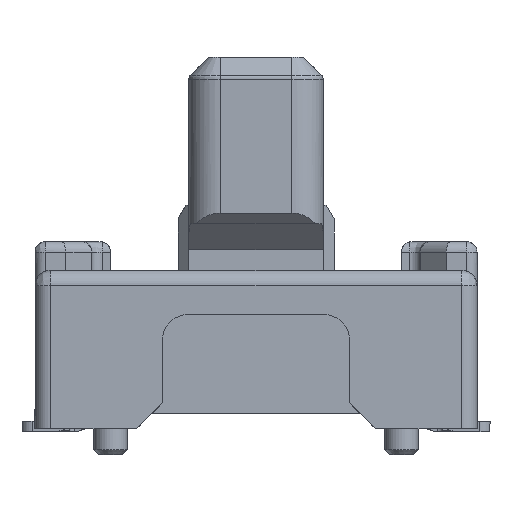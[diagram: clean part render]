
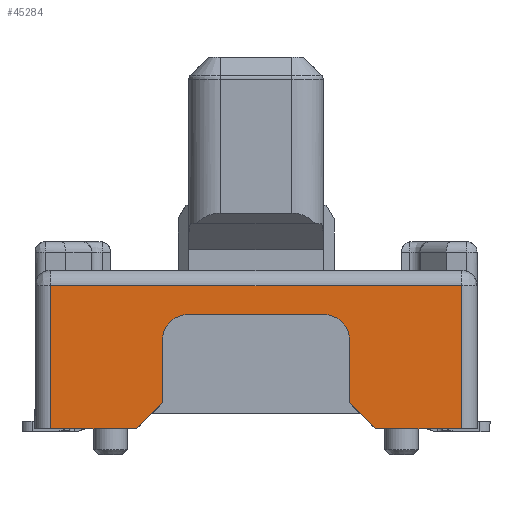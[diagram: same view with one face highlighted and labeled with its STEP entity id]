
A CAD part, front view. The second image highlights one B-rep face of the part: STEP entity #45284.
In plain terms, the highlighted planar face has unit normal (0, -1, 0).
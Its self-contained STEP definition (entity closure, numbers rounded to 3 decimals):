
#219 = ORIENTED_EDGE ( 'NONE', *, *, #21304, .T. ) ;
#1141 = VERTEX_POINT ( 'NONE', #32459 ) ;
#1482 = VERTEX_POINT ( 'NONE', #53776 ) ;
#1816 = CARTESIAN_POINT ( 'NONE',  ( 1.8, -10.9, 1.75 ) ) ;
#3188 = EDGE_CURVE ( 'NONE', #10861, #32218, #42182, .T. ) ;
#3195 = ORIENTED_EDGE ( 'NONE', *, *, #10287, .F. ) ;
#4144 = CARTESIAN_POINT ( 'NONE',  ( -1.8, -10.9, 2.25 ) ) ;
#5046 = ORIENTED_EDGE ( 'NONE', *, *, #38968, .T. ) ;
#5724 = DIRECTION ( 'NONE',  ( 0., 1., 0. ) ) ;
#6372 = ORIENTED_EDGE ( 'NONE', *, *, #41740, .F. ) ;
#7670 = VECTOR ( 'NONE', #19318, 1000. ) ;
#7875 = CARTESIAN_POINT ( 'NONE',  ( -4.25, -10.9, 0.05 ) ) ;
#10287 = EDGE_CURVE ( 'NONE', #11135, #1482, #35763, .T. ) ;
#10861 = VERTEX_POINT ( 'NONE', #1816 ) ;
#11135 = VERTEX_POINT ( 'NONE', #57482 ) ;
#11692 = DIRECTION ( 'NONE',  ( 0., 0., 1. ) ) ;
#12288 = VERTEX_POINT ( 'NONE', #80056 ) ;
#12292 = LINE ( 'NONE', #4144, #35608 ) ;
#13918 = CARTESIAN_POINT ( 'NONE',  ( -4.25, -10.9, 0.05 ) ) ;
#15781 = LINE ( 'NONE', #55152, #19125 ) ;
#16140 = LINE ( 'NONE', #7875, #19143 ) ;
#16161 = EDGE_LOOP ( 'NONE', ( #5046, #48569, #219, #63445, #19121, #6372, #3195, #63718, #77652, #41474, #41744, #65248 ) ) ;
#18042 = VECTOR ( 'NONE', #59689, 1000. ) ;
#18063 = CARTESIAN_POINT ( 'NONE',  ( 1.3, -10.9, 1.75 ) ) ;
#19121 = ORIENTED_EDGE ( 'NONE', *, *, #3188, .F. ) ;
#19125 = VECTOR ( 'NONE', #46876, 1000. ) ;
#19143 = VECTOR ( 'NONE', #80262, 1000. ) ;
#19318 = DIRECTION ( 'NONE',  ( -0.707, 0., 0.707 ) ) ;
#20010 = CARTESIAN_POINT ( 'NONE',  ( 1.8, -10.9, 0.05 ) ) ;
#21304 = EDGE_CURVE ( 'NONE', #55565, #29870, #41528, .T. ) ;
#24637 = CARTESIAN_POINT ( 'NONE',  ( 1.3, -10.9, 2.25 ) ) ;
#25555 = DIRECTION ( 'NONE',  ( 0., 0., 1. ) ) ;
#26943 = VECTOR ( 'NONE', #51650, 1000. ) ;
#27502 = CARTESIAN_POINT ( 'NONE',  ( 2.3, -10.9, 0.05 ) ) ;
#27794 = CARTESIAN_POINT ( 'NONE',  ( 3.95, -10.9, 2.8 ) ) ;
#28173 = LINE ( 'NONE', #20010, #78870 ) ;
#28603 = LINE ( 'NONE', #67901, #18042 ) ;
#29870 = VERTEX_POINT ( 'NONE', #66728 ) ;
#30800 = FACE_OUTER_BOUND ( 'NONE', #16161, .T. ) ;
#32218 = VERTEX_POINT ( 'NONE', #24637 ) ;
#32459 = CARTESIAN_POINT ( 'NONE',  ( -3.95, -10.9, 0.05 ) ) ;
#32932 = EDGE_CURVE ( 'NONE', #1141, #43005, #16140, .T. ) ;
#33776 = CARTESIAN_POINT ( 'NONE',  ( -3.95, -10.9, 0.05 ) ) ;
#34319 = PLANE ( 'NONE',  #52156 ) ;
#34858 = VERTEX_POINT ( 'NONE', #65663 ) ;
#35576 = EDGE_CURVE ( 'NONE', #34858, #55565, #12292, .T. ) ;
#35608 = VECTOR ( 'NONE', #76403, 1000. ) ;
#35763 = LINE ( 'NONE', #27502, #7670 ) ;
#36506 = CARTESIAN_POINT ( 'NONE',  ( -3.95, -10.9, 2.8 ) ) ;
#37087 = EDGE_CURVE ( 'NONE', #61200, #63276, #68108, .T. ) ;
#37150 = EDGE_CURVE ( 'NONE', #29870, #32218, #75254, .T. ) ;
#38968 = EDGE_CURVE ( 'NONE', #43005, #34858, #63207, .T. ) ;
#41474 = ORIENTED_EDGE ( 'NONE', *, *, #37087, .F. ) ;
#41528 = CIRCLE ( 'NONE', #77818, 0.5 ) ;
#41740 = EDGE_CURVE ( 'NONE', #1482, #10861, #28173, .T. ) ;
#41744 = ORIENTED_EDGE ( 'NONE', *, *, #74477, .F. ) ;
#42071 = LINE ( 'NONE', #33776, #52129 ) ;
#42182 = CIRCLE ( 'NONE', #79358, 0.5 ) ;
#43005 = VERTEX_POINT ( 'NONE', #72537 ) ;
#45284 = ADVANCED_FACE ( 'NONE', ( #30800 ), #34319, .F. ) ;
#46741 = DIRECTION ( 'NONE',  ( 0.707, 0., 0.707 ) ) ;
#46749 = DIRECTION ( 'NONE',  ( 1., 0., 0. ) ) ;
#46876 = DIRECTION ( 'NONE',  ( -1., 0., 0. ) ) ;
#48569 = ORIENTED_EDGE ( 'NONE', *, *, #35576, .T. ) ;
#49109 = DIRECTION ( 'NONE',  ( -1., 0., 0. ) ) ;
#51650 = DIRECTION ( 'NONE',  ( 1., 0., 0. ) ) ;
#52129 = VECTOR ( 'NONE', #25555, 1000. ) ;
#52156 = AXIS2_PLACEMENT_3D ( 'NONE', #13918, #5724, #78047 ) ;
#52651 = VECTOR ( 'NONE', #46741, 1000. ) ;
#52770 = CARTESIAN_POINT ( 'NONE',  ( -1.8, -10.9, 1.75 ) ) ;
#53776 = CARTESIAN_POINT ( 'NONE',  ( 1.8, -10.9, 0.55 ) ) ;
#55019 = CARTESIAN_POINT ( 'NONE',  ( -1.8, -10.9, 0.55 ) ) ;
#55026 = DIRECTION ( 'NONE',  ( 0., 1., 0. ) ) ;
#55152 = CARTESIAN_POINT ( 'NONE',  ( -4.25, -10.9, 0.05 ) ) ;
#55565 = VERTEX_POINT ( 'NONE', #52770 ) ;
#57409 = DIRECTION ( 'NONE',  ( 0., -1., 0. ) ) ;
#57482 = CARTESIAN_POINT ( 'NONE',  ( 2.3, -10.9, 0.05 ) ) ;
#58763 = DIRECTION ( 'NONE',  ( 1., 0., 0. ) ) ;
#59689 = DIRECTION ( 'NONE',  ( 0., 0., -1. ) ) ;
#59890 = CARTESIAN_POINT ( 'NONE',  ( -4.25, -10.9, 2.8 ) ) ;
#61200 = VERTEX_POINT ( 'NONE', #36506 ) ;
#63207 = LINE ( 'NONE', #55019, #52651 ) ;
#63214 = CARTESIAN_POINT ( 'NONE',  ( -1.3, -10.9, 1.75 ) ) ;
#63276 = VERTEX_POINT ( 'NONE', #27794 ) ;
#63445 = ORIENTED_EDGE ( 'NONE', *, *, #37150, .T. ) ;
#63718 = ORIENTED_EDGE ( 'NONE', *, *, #71726, .F. ) ;
#65248 = ORIENTED_EDGE ( 'NONE', *, *, #32932, .T. ) ;
#65663 = CARTESIAN_POINT ( 'NONE',  ( -1.8, -10.9, 0.55 ) ) ;
#66728 = CARTESIAN_POINT ( 'NONE',  ( -1.3, -10.9, 2.25 ) ) ;
#66970 = CARTESIAN_POINT ( 'NONE',  ( 0., -10.9, 2.25 ) ) ;
#67901 = CARTESIAN_POINT ( 'NONE',  ( 3.95, -10.9, 0.05 ) ) ;
#68108 = LINE ( 'NONE', #59890, #26943 ) ;
#71726 = EDGE_CURVE ( 'NONE', #12288, #11135, #15781, .T. ) ;
#72537 = CARTESIAN_POINT ( 'NONE',  ( -2.3, -10.9, 0.05 ) ) ;
#74477 = EDGE_CURVE ( 'NONE', #1141, #61200, #42071, .T. ) ;
#74763 = VECTOR ( 'NONE', #58763, 1000. ) ;
#75254 = LINE ( 'NONE', #66970, #74763 ) ;
#76174 = EDGE_CURVE ( 'NONE', #63276, #12288, #28603, .T. ) ;
#76403 = DIRECTION ( 'NONE',  ( 0., 0., 1. ) ) ;
#77652 = ORIENTED_EDGE ( 'NONE', *, *, #76174, .F. ) ;
#77818 = AXIS2_PLACEMENT_3D ( 'NONE', #63214, #55026, #46749 ) ;
#78047 = DIRECTION ( 'NONE',  ( 0., 0., 1. ) ) ;
#78870 = VECTOR ( 'NONE', #11692, 1000. ) ;
#79358 = AXIS2_PLACEMENT_3D ( 'NONE', #18063, #57409, #49109 ) ;
#80056 = CARTESIAN_POINT ( 'NONE',  ( 3.95, -10.9, 0.05 ) ) ;
#80262 = DIRECTION ( 'NONE',  ( 1., 0., 0. ) ) ;
